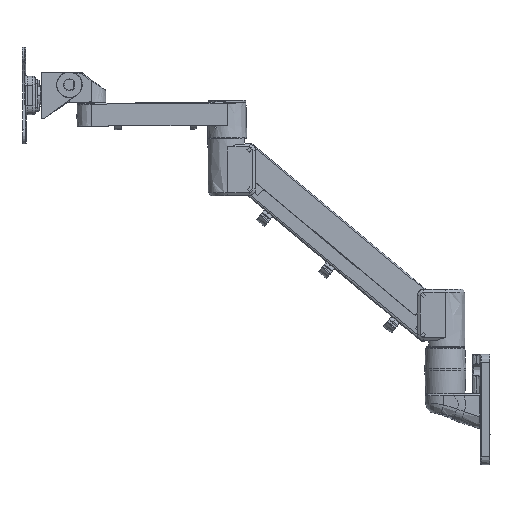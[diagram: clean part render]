
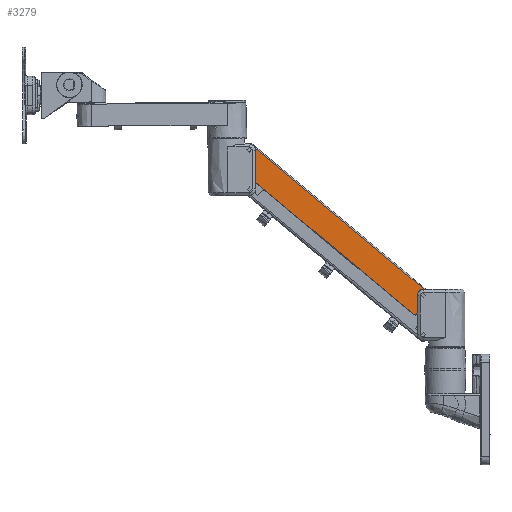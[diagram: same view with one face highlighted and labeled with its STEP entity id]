
A CAD part, left-side view. The second image highlights one B-rep face of the part: STEP entity #3279.
In plain terms, the highlighted planar face has unit normal (-1, -0.006, 0.007).
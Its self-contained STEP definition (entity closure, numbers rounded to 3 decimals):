
#3279=ADVANCED_FACE('',(#6502),#45963,.T.);
#6502=FACE_OUTER_BOUND('',#9799,.T.);
#9799=EDGE_LOOP('',(#23782,#23783,#23784,#23785,#23786,#23787,#23788,#23789,
#23790,#23791));
#23782=ORIENTED_EDGE('',*,*,#31786,.T.);
#23783=ORIENTED_EDGE('',*,*,#31785,.T.);
#23784=ORIENTED_EDGE('',*,*,#31784,.T.);
#23785=ORIENTED_EDGE('',*,*,#31783,.T.);
#23786=ORIENTED_EDGE('',*,*,#31782,.T.);
#23787=ORIENTED_EDGE('',*,*,#31781,.T.);
#23788=ORIENTED_EDGE('',*,*,#31780,.T.);
#23789=ORIENTED_EDGE('',*,*,#31779,.T.);
#23790=ORIENTED_EDGE('',*,*,#31763,.F.);
#23791=ORIENTED_EDGE('',*,*,#31776,.F.);
#31763=EDGE_CURVE('',#43695,#43694,#36678,.T.);
#31776=EDGE_CURVE('',#43705,#43695,#36690,.T.);
#31779=EDGE_CURVE('',#43706,#43694,#36691,.T.);
#31780=EDGE_CURVE('',#43707,#43706,#39495,.T.);
#31781=EDGE_CURVE('',#43708,#43707,#36692,.T.);
#31782=EDGE_CURVE('',#43709,#43708,#39496,.T.);
#31783=EDGE_CURVE('',#43710,#43709,#36693,.T.);
#31784=EDGE_CURVE('',#43711,#43710,#36694,.T.);
#31785=EDGE_CURVE('',#43712,#43711,#36695,.T.);
#31786=EDGE_CURVE('',#43705,#43712,#36696,.T.);
#36678=B_SPLINE_CURVE_WITH_KNOTS('',3,(#116694,#116695,#116696,#116697,
#116698,#116699,#116700,#116701,#116702,#116703,#116704,#116705,#116706,
#116707),.UNSPECIFIED.,.F.,.F.,(4,1,1,1,1,1,1,1,1,1,1,4),(0.,0.091,
0.182,0.273,0.364,0.455,0.545,
0.636,0.727,0.818,0.909,1.),
 .UNSPECIFIED.);
#36690=B_SPLINE_CURVE_WITH_KNOTS('',3,(#116770,#116771,#116772,#116773,
#116774,#116775,#116776),.UNSPECIFIED.,.F.,.F.,(4,1,1,1,4),(0.,0.25,0.5,
0.75,1.),.UNSPECIFIED.);
#36691=B_SPLINE_CURVE_WITH_KNOTS('',1,(#116787,#116788),.UNSPECIFIED.,.F.,
 .F.,(2,2),(-20.908,0.),.UNSPECIFIED.);
#36692=B_SPLINE_CURVE_WITH_KNOTS('',1,(#116794,#116795),.UNSPECIFIED.,.F.,
 .F.,(2,2),(0.,295.885),.UNSPECIFIED.);
#36693=B_SPLINE_CURVE_WITH_KNOTS('',1,(#116801,#116802),.UNSPECIFIED.,.F.,
 .F.,(2,2),(-20.907,0.),.UNSPECIFIED.);
#36694=B_SPLINE_CURVE_WITH_KNOTS('',3,(#116803,#116804,#116805,#116806,
#116807,#116808,#116809,#116810,#116811,#116812,#116813,#116814,#116815,
#116816),.UNSPECIFIED.,.F.,.F.,(4,1,1,1,1,1,1,1,1,1,1,4),(-1.,-0.909,
-0.818,-0.727,-0.636,-0.545,-0.455,
-0.364,-0.273,-0.182,-0.091,0.),
 .UNSPECIFIED.);
#36695=B_SPLINE_CURVE_WITH_KNOTS('',3,(#116817,#116818,#116819,#116820,
#116821,#116822,#116823),.UNSPECIFIED.,.F.,.F.,(4,1,1,1,4),(-1.,-0.75,-0.5,
-0.25,0.),.UNSPECIFIED.);
#36696=B_SPLINE_CURVE_WITH_KNOTS('',1,(#116824,#116825),.UNSPECIFIED.,.F.,
 .F.,(2,2),(0.,275.712),.UNSPECIFIED.);
#39495=(
BOUNDED_CURVE()
B_SPLINE_CURVE(2,(#116789,#116790,#116791,#116792,#116793),
 .UNSPECIFIED.,.F.,.F.)
B_SPLINE_CURVE_WITH_KNOTS((3,2,3),(-3.976,-1.988,
0.),.UNSPECIFIED.)
CURVE()
GEOMETRIC_REPRESENTATION_ITEM()
RATIONAL_B_SPLINE_CURVE((1.,0.922,1.,0.922,1.))
REPRESENTATION_ITEM('')
);
#39496=(
BOUNDED_CURVE()
B_SPLINE_CURVE(2,(#116796,#116797,#116798,#116799,#116800),
 .UNSPECIFIED.,.F.,.F.)
B_SPLINE_CURVE_WITH_KNOTS((3,2,3),(-3.976,-1.988,0.),
 .UNSPECIFIED.)
CURVE()
GEOMETRIC_REPRESENTATION_ITEM()
RATIONAL_B_SPLINE_CURVE((1.,0.922,1.,0.922,1.))
REPRESENTATION_ITEM('')
);
#43694=VERTEX_POINT('',#116579);
#43695=VERTEX_POINT('',#116580);
#43705=VERTEX_POINT('',#116590);
#43706=VERTEX_POINT('',#116591);
#43707=VERTEX_POINT('',#116592);
#43708=VERTEX_POINT('',#116593);
#43709=VERTEX_POINT('',#116594);
#43710=VERTEX_POINT('',#116595);
#43711=VERTEX_POINT('',#116596);
#43712=VERTEX_POINT('',#116597);
#45963=PLANE('',#49681);
#49681=AXIS2_PLACEMENT_3D('',#115768,#51686,$);
#51686=DIRECTION('',(-1.,-0.006,0.007));
#115768=CARTESIAN_POINT('',(-17.629,309.415,403.723));
#116579=CARTESIAN_POINT('',(-17.741,63.634,181.686));
#116580=CARTESIAN_POINT('',(-17.718,73.873,193.686));
#116590=CARTESIAN_POINT('',(-17.661,67.122,196.533));
#116591=CARTESIAN_POINT('',(-17.923,76.739,165.394));
#116592=CARTESIAN_POINT('',(-17.946,80.29,165.043));
#116593=CARTESIAN_POINT('',(-17.946,307.343,354.768));
#116594=CARTESIAN_POINT('',(-17.923,307.628,358.325));
#116595=CARTESIAN_POINT('',(-17.741,293.925,374.116));
#116596=CARTESIAN_POINT('',(-17.718,280.297,366.173));
#116597=CARTESIAN_POINT('',(-17.661,278.695,373.321));
#116694=CARTESIAN_POINT('',(-17.718,73.873,193.686));
#116695=CARTESIAN_POINT('',(-17.724,74.32,193.15));
#116696=CARTESIAN_POINT('',(-17.736,75.047,192.006));
#116697=CARTESIAN_POINT('',(-17.752,75.685,190.04));
#116698=CARTESIAN_POINT('',(-17.767,75.801,187.989));
#116699=CARTESIAN_POINT('',(-17.778,75.398,185.975));
#116700=CARTESIAN_POINT('',(-17.785,74.502,184.13));
#116701=CARTESIAN_POINT('',(-17.788,73.17,182.569));
#116702=CARTESIAN_POINT('',(-17.787,71.489,181.394));
#116703=CARTESIAN_POINT('',(-17.781,69.564,180.679));
#116704=CARTESIAN_POINT('',(-17.771,67.52,180.471));
#116705=CARTESIAN_POINT('',(-17.757,65.478,180.791));
#116706=CARTESIAN_POINT('',(-17.747,64.234,181.329));
#116707=CARTESIAN_POINT('',(-17.741,63.634,181.686));
#116770=CARTESIAN_POINT('',(-17.661,67.122,196.533));
#116771=CARTESIAN_POINT('',(-17.664,67.766,196.582));
#116772=CARTESIAN_POINT('',(-17.672,69.026,196.526));
#116773=CARTESIAN_POINT('',(-17.686,70.873,195.998));
#116774=CARTESIAN_POINT('',(-17.701,72.54,195.044));
#116775=CARTESIAN_POINT('',(-17.712,73.459,194.181));
#116776=CARTESIAN_POINT('',(-17.718,73.873,193.686));
#116787=CARTESIAN_POINT('',(-17.923,76.739,165.394));
#116788=CARTESIAN_POINT('',(-17.741,63.634,181.686));
#116789=CARTESIAN_POINT('',(-17.946,80.29,165.043));
#116790=CARTESIAN_POINT('',(-17.946,79.485,164.37));
#116791=CARTESIAN_POINT('',(-17.939,78.441,164.473));
#116792=CARTESIAN_POINT('',(-17.933,77.396,164.576));
#116793=CARTESIAN_POINT('',(-17.923,76.739,165.394));
#116794=CARTESIAN_POINT('',(-17.946,307.343,354.768));
#116795=CARTESIAN_POINT('',(-17.946,80.29,165.043));
#116796=CARTESIAN_POINT('',(-17.923,307.628,358.325));
#116797=CARTESIAN_POINT('',(-17.933,308.317,357.533));
#116798=CARTESIAN_POINT('',(-17.939,308.233,356.487));
#116799=CARTESIAN_POINT('',(-17.946,308.149,355.44));
#116800=CARTESIAN_POINT('',(-17.946,307.343,354.768));
#116801=CARTESIAN_POINT('',(-17.741,293.925,374.116));
#116802=CARTESIAN_POINT('',(-17.923,307.628,358.325));
#116803=CARTESIAN_POINT('',(-17.718,280.297,366.173));
#116804=CARTESIAN_POINT('',(-17.724,280.744,365.637));
#116805=CARTESIAN_POINT('',(-17.736,281.741,364.719));
#116806=CARTESIAN_POINT('',(-17.752,283.563,363.741));
#116807=CARTESIAN_POINT('',(-17.767,285.56,363.263));
#116808=CARTESIAN_POINT('',(-17.778,287.613,363.301));
#116809=CARTESIAN_POINT('',(-17.785,289.589,363.856));
#116810=CARTESIAN_POINT('',(-17.788,291.361,364.888));
#116811=CARTESIAN_POINT('',(-17.787,292.817,366.334));
#116812=CARTESIAN_POINT('',(-17.781,293.862,368.102));
#116813=CARTESIAN_POINT('',(-17.771,294.43,370.076));
#116814=CARTESIAN_POINT('',(-17.757,294.478,372.142));
#116815=CARTESIAN_POINT('',(-17.747,294.17,373.462));
#116816=CARTESIAN_POINT('',(-17.741,293.925,374.116));
#116817=CARTESIAN_POINT('',(-17.661,278.695,373.321));
#116818=CARTESIAN_POINT('',(-17.664,278.532,372.697));
#116819=CARTESIAN_POINT('',(-17.672,278.363,371.447));
#116820=CARTESIAN_POINT('',(-17.686,278.554,369.536));
#116821=CARTESIAN_POINT('',(-17.701,279.197,367.726));
#116822=CARTESIAN_POINT('',(-17.712,279.883,366.668));
#116823=CARTESIAN_POINT('',(-17.718,280.297,366.173));
#116824=CARTESIAN_POINT('',(-17.661,67.122,196.533));
#116825=CARTESIAN_POINT('',(-17.661,278.695,373.321));
